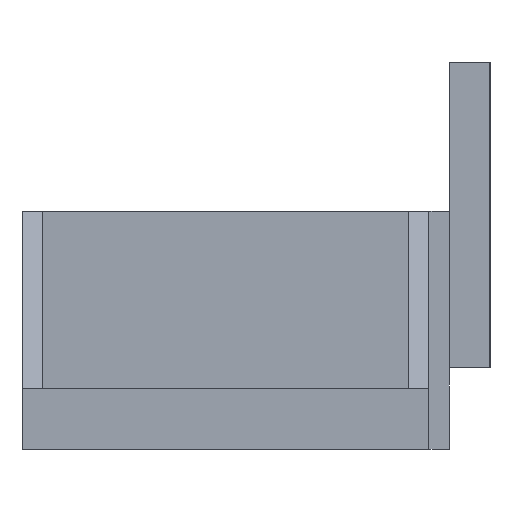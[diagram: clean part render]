
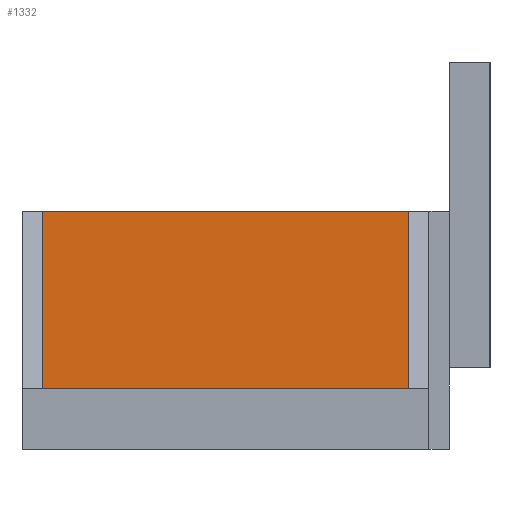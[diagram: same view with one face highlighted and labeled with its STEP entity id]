
A CAD part, left-side view. The second image highlights one B-rep face of the part: STEP entity #1332.
In plain terms, the highlighted planar face has unit normal (-1, 0, 0).
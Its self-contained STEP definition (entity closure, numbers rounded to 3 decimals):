
#15 = CARTESIAN_POINT ( 'NONE',  ( -14., -8.5, 11.7 ) ) ;
#51 = VERTEX_POINT ( 'NONE', #1018 ) ;
#78 = FACE_OUTER_BOUND ( 'NONE', #80, .T. ) ;
#80 = EDGE_LOOP ( 'NONE', ( #348, #992, #736, #960 ) ) ;
#113 = VECTOR ( 'NONE', #266, 1000. ) ;
#115 = AXIS2_PLACEMENT_3D ( 'NONE', #496, #291, #1143 ) ;
#195 = EDGE_CURVE ( 'NONE', #1318, #826, #425, .T. ) ;
#264 = EDGE_CURVE ( 'NONE', #826, #51, #948, .T. ) ;
#266 = DIRECTION ( 'NONE',  ( 0., -1., 0. ) ) ;
#278 = VECTOR ( 'NONE', #1017, 1000. ) ;
#291 = DIRECTION ( 'NONE',  ( -1., 0., 0. ) ) ;
#336 = CARTESIAN_POINT ( 'NONE',  ( -14., -5.25, 11.7 ) ) ;
#348 = ORIENTED_EDGE ( 'NONE', *, *, #743, .T. ) ;
#367 = VECTOR ( 'NONE', #1296, 1000. ) ;
#425 = LINE ( 'NONE', #336, #438 ) ;
#438 = VECTOR ( 'NONE', #955, 1000. ) ;
#490 = CARTESIAN_POINT ( 'NONE',  ( -14., 9.5, 11.7 ) ) ;
#496 = CARTESIAN_POINT ( 'NONE',  ( -14., 9.5, 11.7 ) ) ;
#527 = EDGE_CURVE ( 'NONE', #1318, #1238, #1234, .T. ) ;
#602 = CARTESIAN_POINT ( 'NONE',  ( -14., 9.5, 11.7 ) ) ;
#690 = LINE ( 'NONE', #796, #113 ) ;
#736 = ORIENTED_EDGE ( 'NONE', *, *, #195, .F. ) ;
#743 = EDGE_CURVE ( 'NONE', #1238, #51, #690, .T. ) ;
#796 = CARTESIAN_POINT ( 'NONE',  ( -14., 9.5, 3. ) ) ;
#826 = VERTEX_POINT ( 'NONE', #1000 ) ;
#829 = PLANE ( 'NONE',  #115 ) ;
#948 = LINE ( 'NONE', #15, #367 ) ;
#955 = DIRECTION ( 'NONE',  ( 0., -1., 0. ) ) ;
#960 = ORIENTED_EDGE ( 'NONE', *, *, #527, .T. ) ;
#992 = ORIENTED_EDGE ( 'NONE', *, *, #264, .F. ) ;
#999 = CARTESIAN_POINT ( 'NONE',  ( -14., 9.5, 3. ) ) ;
#1000 = CARTESIAN_POINT ( 'NONE',  ( -14., -8.5, 11.7 ) ) ;
#1017 = DIRECTION ( 'NONE',  ( 0., 0., -1. ) ) ;
#1018 = CARTESIAN_POINT ( 'NONE',  ( -14., -8.5, 3. ) ) ;
#1143 = DIRECTION ( 'NONE',  ( 0., 0., 1. ) ) ;
#1234 = LINE ( 'NONE', #602, #278 ) ;
#1238 = VERTEX_POINT ( 'NONE', #999 ) ;
#1296 = DIRECTION ( 'NONE',  ( 0., 0., -1. ) ) ;
#1318 = VERTEX_POINT ( 'NONE', #490 ) ;
#1332 = ADVANCED_FACE ( 'NONE', ( #78 ), #829, .T. ) ;
